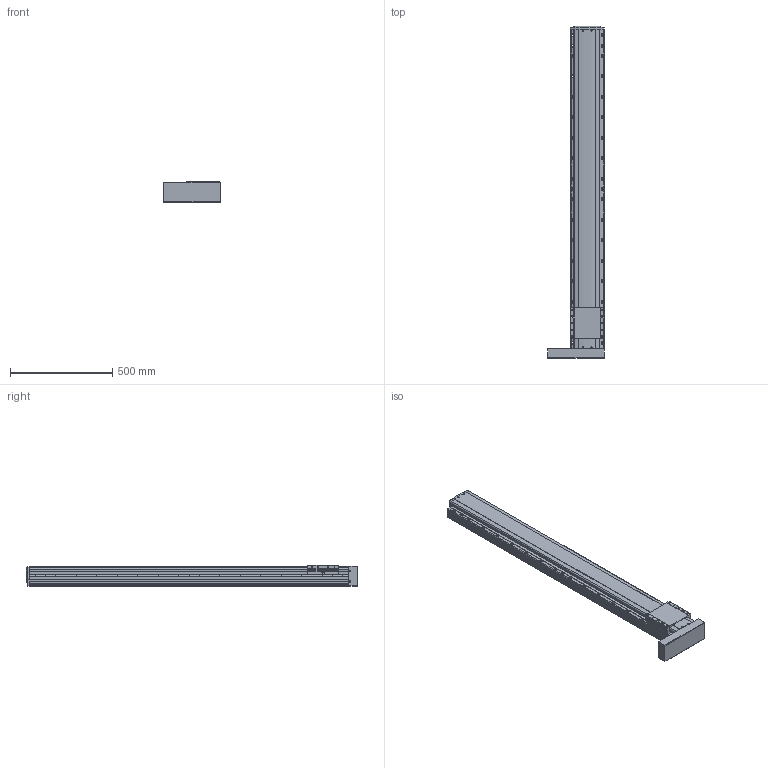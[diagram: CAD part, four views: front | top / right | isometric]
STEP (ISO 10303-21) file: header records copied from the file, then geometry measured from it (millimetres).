
FILE_DESCRIPTION(('STEP AP214'),'1');
FILE_NAME('Z:/Web/3D/PSA165/STP/PSA165-1300 (3D)/PSA165ㅁㅁ-1300PL.stp','2014-06-24T10:38:45',(' '),(' '),'Spatial InterOp 3D',' ',' ');
FILE_SCHEMA(('automotive_design'));
Length unit declared in the file: millimetre
Products named in the file (23): 스크루 : Round - M4.0 x 12.0; RRCV-PA160; BASE; 스크루 : Round - M4.0 x 10.0; RN15; Screw 20; SLIDE; FRCV; MTPL; 스크루 : Round - M3.0 x 6.0
Bounding box: 281.93 x 1620.8 x 104 mm (x, y, z)
Volume: 22759699.7 mm3; surface area: 1359344.1 mm2
Topology: 23 solids, 23 shells, 2171 faces, 5877 edges, 3733 vertices
Faces by surface type: plane 1116, cylinder 753, cone 217, sphere 44, bspline 25, torus 16
Entity records: 88887 total; most frequent: CARTESIAN_POINT 16218, DIRECTION 11583, ORIENTED_EDGE 11414, EDGE_CURVE 5707, AXIS2_PLACEMENT_3D 3952, VERTEX_POINT 3733, LINE 3679, VECTOR 3679
